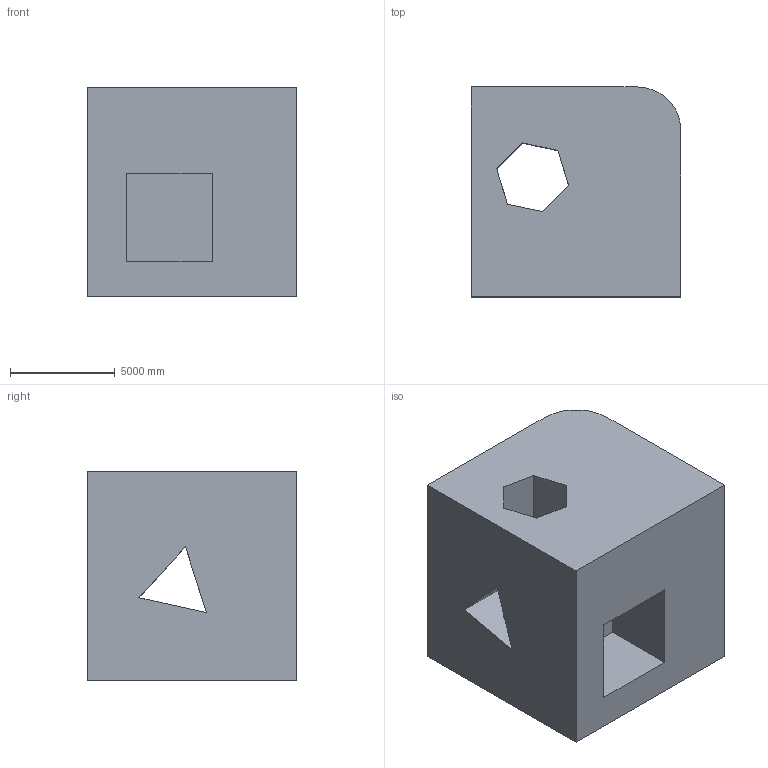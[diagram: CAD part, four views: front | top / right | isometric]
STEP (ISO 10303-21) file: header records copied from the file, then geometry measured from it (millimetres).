
FILE_DESCRIPTION (( 'STEP AP203' ), '1' );
FILE_NAME ('1398.STEP', '2022-08-18T14:14:14', ( 'user' ), ( '' ), 'SwSTEP 2.0', 'SolidWorks 2021', '' );
FILE_SCHEMA (( 'CONFIG_CONTROL_DESIGN' ));
Length unit declared in the file: centimetre
Products named in the file (1): 1398
Bounding box: 10000 x 10000 x 10000 mm (x, y, z)
Volume: 817159087524.8 mm3; surface area: 790763517.8 mm2
Topology: 1 solids, 1 shells, 26 faces, 75 edges, 50 vertices
Faces by surface type: plane 25, cylinder 1
Entity records: 930 total; most frequent: CARTESIAN_POINT 152, ORIENTED_EDGE 150, DIRECTION 131, EDGE_CURVE 75, VECTOR 73, LINE 73, VERTEX_POINT 50, EDGE_LOOP 31
